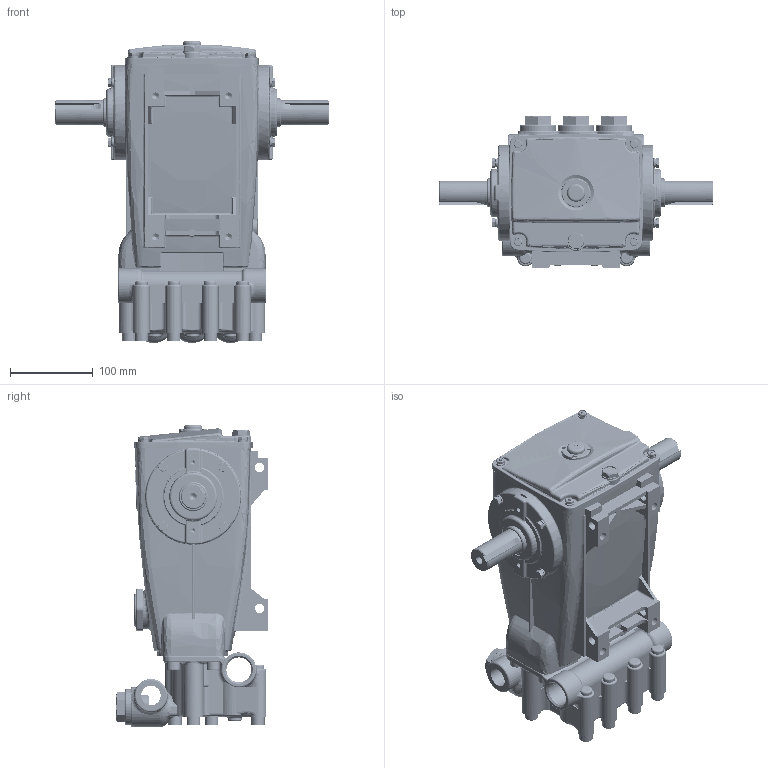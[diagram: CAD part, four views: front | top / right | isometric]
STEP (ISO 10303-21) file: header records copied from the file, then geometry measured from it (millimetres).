
FILE_DESCRIPTION (( 'STEP AP214' ), '1' );
FILE_NAME ('1540.STEP', '2013-04-25T09:45:11', ( '' ), ( '' ), 'SwSTEP 2.0', 'SolidWorks 2013', '' );
FILE_SCHEMA (( 'AUTOMOTIVE_DESIGN' ));
Length unit declared in the file: millimetre
Products named in the file (1): 1540
Bounding box: 330 x 183 x 364.3 mm (x, y, z)
Volume: 4049284.4 mm3; surface area: 844419.4 mm2
Topology: 1 solids, 41 shells, 4580 faces, 11625 edges, 7319 vertices
Faces by surface type: plane 1762, cylinder 1292, bspline 732, torus 546, cone 224, sphere 24
Entity records: 209232 total; most frequent: CARTESIAN_POINT 76194, ORIENTED_EDGE 23064, DIRECTION 20403, EDGE_CURVE 11532, AXIS2_PLACEMENT_3D 7557, VERTEX_POINT 7314, LINE 5289, VECTOR 5289
